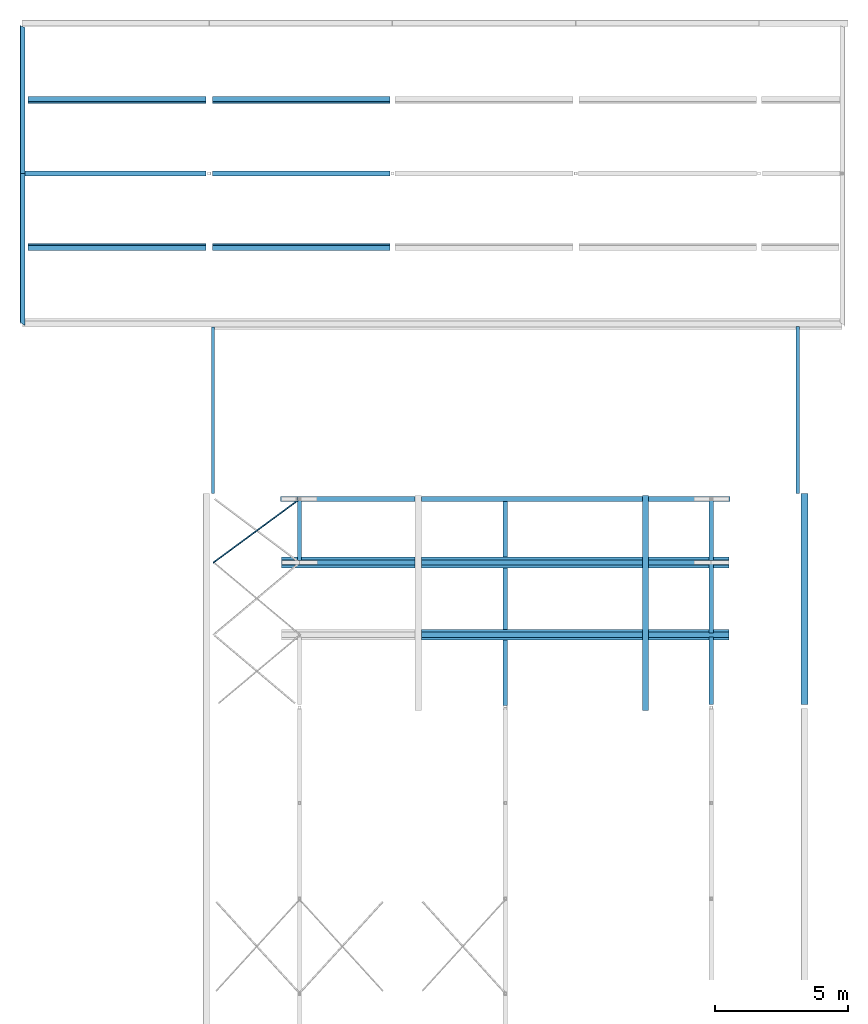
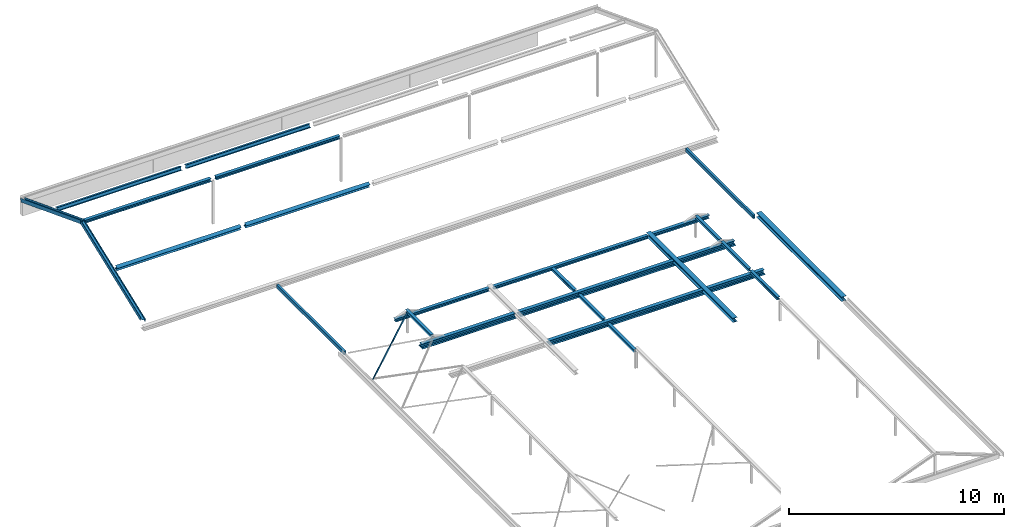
# One storey, part 6 of 10: 28 beams.
"""IFC2X3 building model written with IfcOpenShell, lengths in millimetres."""

from ifc_helpers import new_model, entity, si_unit, converted_unit, derived_unit, direction, frame, frame_2d, origin, place, context, subcontext, project, spatial, polyline, rectangle, i_section, outline, extrude, boolean, clip, halfspace, source, transform, mapped, material, type_object, type_shapes, element, save


model = new_model("IFC2X3")

# Units and contexts
model_context = context("Model", 3, precision=0.01, world=origin(), true_north=direction((6.123031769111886e-17, 1.0)))
body_context = subcontext(model_context, "Body", "Model", "MODEL_VIEW")
ifc_project = project(units=[si_unit("LENGTHUNIT", "METRE", prefix="MILLI"), si_unit("AREAUNIT", "SQUARE_METRE", prefix="MILLI"), si_unit("VOLUMEUNIT", "CUBIC_METRE"), converted_unit("PLANEANGLEUNIT", "DEGREE", entity("IfcPlaneAngleMeasure", 0.017453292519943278), si_unit("PLANEANGLEUNIT", "RADIAN"), dimensions=[0, 0, 0, 0, 0, 0, 0]), si_unit("MASSUNIT", "GRAM", prefix="KILO"), derived_unit("MASSDENSITYUNIT", [(si_unit("MASSUNIT", "GRAM", prefix="KILO"), 1), (si_unit("LENGTHUNIT", "METRE"), -3)]), derived_unit("IONCONCENTRATIONUNIT", [(si_unit("MASSUNIT", "GRAM", prefix="KILO"), 1), (si_unit("LENGTHUNIT", "METRE"), -3)]), derived_unit("MOMENTOFINERTIAUNIT", [(si_unit("LENGTHUNIT", "METRE"), 4)]), si_unit("TIMEUNIT", "SECOND"), si_unit("FREQUENCYUNIT", "HERTZ"), si_unit("THERMODYNAMICTEMPERATUREUNIT", "DEGREE_CELSIUS"), derived_unit("THERMALTRANSMITTANCEUNIT", [(si_unit("MASSUNIT", "GRAM", prefix="KILO"), 1), (si_unit("THERMODYNAMICTEMPERATUREUNIT", "KELVIN"), -1), (si_unit("TIMEUNIT", "SECOND"), -3)]), derived_unit("THERMALCONDUCTANCEUNIT", [(si_unit("MASSUNIT", "GRAM", prefix="KILO"), 1), (si_unit("THERMODYNAMICTEMPERATUREUNIT", "KELVIN"), -1), (si_unit("TIMEUNIT", "SECOND"), -3), (si_unit("LENGTHUNIT", "METRE"), 1)]), derived_unit("VOLUMETRICFLOWRATEUNIT", [(si_unit("LENGTHUNIT", "METRE", prefix="DECI"), 3), (si_unit("TIMEUNIT", "SECOND"), -1)]), derived_unit("MASSFLOWRATEUNIT", [(si_unit("MASSUNIT", "GRAM", prefix="KILO"), 1), (si_unit("TIMEUNIT", "SECOND"), -1)]), derived_unit("ROTATIONALFREQUENCYUNIT", [(si_unit("TIMEUNIT", "SECOND"), -1)]), si_unit("ELECTRICCURRENTUNIT", "AMPERE"), si_unit("ELECTRICVOLTAGEUNIT", "VOLT"), si_unit("POWERUNIT", "WATT"), si_unit("FORCEUNIT", "NEWTON", prefix="KILO"), si_unit("ILLUMINANCEUNIT", "LUX"), si_unit("LUMINOUSFLUXUNIT", "LUMEN"), si_unit("LUMINOUSINTENSITYUNIT", "CANDELA"), si_unit("ENERGYUNIT", "JOULE"), derived_unit("USERDEFINED", [(si_unit("MASSUNIT", "GRAM", prefix="KILO"), -1), (si_unit("LENGTHUNIT", "METRE"), -2), (si_unit("TIMEUNIT", "SECOND"), 3), (si_unit("LUMINOUSFLUXUNIT", "LUMEN"), 1)]), derived_unit("USERDEFINED", [(si_unit("MASSUNIT", "GRAM", prefix="KILO"), 1), (si_unit("TIMEUNIT", "SECOND"), -3), (si_unit("LENGTHUNIT", "METRE"), 3), (si_unit("ELECTRICCURRENTUNIT", "AMPERE"), -2)]), derived_unit("SOUNDPOWERUNIT", [(si_unit("MASSUNIT", "GRAM", prefix="KILO"), 1), (si_unit("TIMEUNIT", "SECOND"), -3), (si_unit("LENGTHUNIT", "METRE"), 2)]), derived_unit("SOUNDPRESSUREUNIT", [(si_unit("MASSUNIT", "GRAM", prefix="KILO"), 1), (si_unit("LENGTHUNIT", "METRE"), -1), (si_unit("TIMEUNIT", "SECOND"), -2)]), derived_unit("LINEARVELOCITYUNIT", [(si_unit("LENGTHUNIT", "METRE"), 1), (si_unit("TIMEUNIT", "SECOND"), -1)]), si_unit("PRESSUREUNIT", "PASCAL"), derived_unit("USERDEFINED", [(si_unit("MASSUNIT", "GRAM", prefix="KILO"), 1), (si_unit("LENGTHUNIT", "METRE"), -2), (si_unit("TIMEUNIT", "SECOND"), -2)]), derived_unit("LINEARFORCEUNIT", [(si_unit("MASSUNIT", "GRAM", prefix="KILO"), 1), (si_unit("TIMEUNIT", "SECOND"), -2)]), derived_unit("PLANARFORCEUNIT", [(si_unit("MASSUNIT", "GRAM", prefix="KILO"), 1), (si_unit("LENGTHUNIT", "METRE"), -1), (si_unit("TIMEUNIT", "SECOND"), -2)]), derived_unit("SPECIFICHEATCAPACITYUNIT", [(si_unit("THERMODYNAMICTEMPERATUREUNIT", "KELVIN"), -1), (si_unit("LENGTHUNIT", "METRE"), 2), (si_unit("TIMEUNIT", "SECOND"), -2)]), derived_unit("HEATFLUXDENSITYUNIT", [(si_unit("MASSUNIT", "GRAM", prefix="KILO"), 1), (si_unit("TIMEUNIT", "SECOND"), -3)]), derived_unit("HEATINGVALUEUNIT", [(si_unit("LENGTHUNIT", "METRE"), 2), (si_unit("TIMEUNIT", "SECOND"), -2)]), derived_unit("VAPORPERMEABILITYUNIT", [(si_unit("LENGTHUNIT", "METRE"), -1), (si_unit("TIMEUNIT", "SECOND"), 1)]), derived_unit("DYNAMICVISCOSITYUNIT", [(si_unit("MASSUNIT", "GRAM", prefix="KILO"), 1), (si_unit("TIMEUNIT", "SECOND"), -1), (si_unit("LENGTHUNIT", "METRE"), -1)]), derived_unit("THERMALEXPANSIONCOEFFICIENTUNIT", [(si_unit("THERMODYNAMICTEMPERATUREUNIT", "KELVIN"), -1)]), derived_unit("MODULUSOFELASTICITYUNIT", [(si_unit("MASSUNIT", "GRAM", prefix="KILO"), 1), (si_unit("LENGTHUNIT", "METRE"), -1), (si_unit("TIMEUNIT", "SECOND"), -2)]), derived_unit("ISOTHERMALMOISTURECAPACITYUNIT", [(si_unit("MASSUNIT", "GRAM", prefix="KILO"), -1), (si_unit("LENGTHUNIT", "METRE"), 3)]), derived_unit("MOISTUREDIFFUSIVITYUNIT", [(si_unit("TIMEUNIT", "SECOND"), -1), (si_unit("LENGTHUNIT", "METRE"), 2)]), derived_unit("MASSPERLENGTHUNIT", [(si_unit("MASSUNIT", "GRAM", prefix="KILO"), 1), (si_unit("LENGTHUNIT", "METRE"), -1)]), derived_unit("THERMALRESISTANCEUNIT", [(si_unit("MASSUNIT", "GRAM", prefix="KILO"), -1), (si_unit("TIMEUNIT", "SECOND"), 3), (si_unit("THERMODYNAMICTEMPERATUREUNIT", "KELVIN"), 1)]), derived_unit("ACCELERATIONUNIT", [(si_unit("LENGTHUNIT", "METRE"), 1), (si_unit("TIMEUNIT", "SECOND"), -2)]), derived_unit("ANGULARVELOCITYUNIT", [(si_unit("TIMEUNIT", "SECOND"), -1), (si_unit("PLANEANGLEUNIT", "RADIAN"), 1)]), derived_unit("LINEARSTIFFNESSUNIT", [(si_unit("MASSUNIT", "GRAM", prefix="KILO"), 1), (si_unit("TIMEUNIT", "SECOND"), -2)]), derived_unit("WARPINGCONSTANTUNIT", [(si_unit("LENGTHUNIT", "METRE"), 6)]), derived_unit("LINEARMOMENTUNIT", [(si_unit("MASSUNIT", "GRAM", prefix="KILO"), 1), (si_unit("LENGTHUNIT", "METRE"), 1), (si_unit("TIMEUNIT", "SECOND"), -2)]), derived_unit("TORQUEUNIT", [(si_unit("MASSUNIT", "GRAM", prefix="KILO"), 1), (si_unit("LENGTHUNIT", "METRE"), 2), (si_unit("TIMEUNIT", "SECOND"), -2)])], contexts=[model_context])

# Site, building, storey
site_placement = place(None, origin())
site = spatial("IfcSite", under=ifc_project, at=site_placement, Name="Default", CompositionType="ELEMENT")
building_placement = place(site_placement, origin())
building = spatial("IfcBuilding", under=site, at=building_placement, CompositionType="ELEMENT")
storey_placement = place(building_placement, frame((0.0, 0.0, 11700.0)))
storey = spatial("IfcBuildingStorey", under=building, at=storey_placement, Name="V4 BK metselwerk", CompositionType="ELEMENT", Elevation=11699.999999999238)

# Beams
ifc_material_1 = material(Name="Metal - Steel - S235 JRG2 (standaard)")
beam_type_1 = type_object("IfcBeamType", Name="btl_staal - HE(a-b-m):HEA160.", PredefinedType="NOTDEFINED")
beam_1_placement = place(storey_placement, frame((10225.896298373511, 25434.60501307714, 424.0), z_axis=(0.0, 0.0, 1.0), x_axis=(0.0, -1.0, 0.0)))
element("IfcBeam", 1, at=beam_1_placement, inside=storey, type_object=beam_type_1, material=ifc_material_1, Name="btl_staal - HE(a-b-m):HEA160.", ObjectType="btl_staal - HE(a-b-m):HEA160.", context=body_context, shape_type="SweptSolid", body=[
    extrude(i_section(OverallWidth=160.00000000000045, OverallDepth=151.99999999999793, WebThickness=6.000000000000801, FlangeThickness=9.000000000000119, at=frame_2d((-1.0800249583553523e-12, -1.0871303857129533e-12), x_axis=(0.0, 1.0))), frame((0.0, 0.0, -76.0), z_axis=(1.0, 0.0, 0.0), x_axis=(0.0, 0.0, -1.0)), (0.0, 0.0, 1.0), 2403.351388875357),
])
beam_2_placement = place(storey_placement, frame((17974.631844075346, 17544.605013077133, 180.0), z_axis=(0.0, -0.007453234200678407, 0.9999722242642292), x_axis=(0.0, 0.9999722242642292, 0.007453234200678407)))
element("IfcBeam", 2, at=beam_2_placement, inside=storey, type_object=beam_type_1, material=ifc_material_1, Name="btl_staal - HE(a-b-m):HEA160.", ObjectType="btl_staal - HE(a-b-m):HEA160.", context=body_context, shape_type="SweptSolid", body=[
    extrude(i_section(OverallWidth=160.00000000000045, OverallDepth=152.00000000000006, WebThickness=6.000000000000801, FlangeThickness=8.999999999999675, at=frame_2d((1.0800249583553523e-12, 1.0871303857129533e-12), x_axis=(0.0, 1.0))), frame((20.000555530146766, 0.0, -76.0), z_axis=(1.0, 0.0, 0.0), x_axis=(0.0, 0.0, -1.0)), (0.0, 0.0, 1.0), 2462.259805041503),
])
beam_3_placement = place(storey_placement, frame((25724.07989212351, 25279.105013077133, 424.0), z_axis=(0.0, 0.0, 1.0), x_axis=(0.0, -1.0, 0.0)))
element("IfcBeam", 3, at=beam_3_placement, inside=storey, type_object=beam_type_1, material=ifc_material_1, Name="btl_staal - HE(a-b-m):HEA160.", ObjectType="btl_staal - HE(a-b-m):HEA160.", context=body_context, shape_type="SweptSolid", body=[
    extrude(i_section(OverallWidth=159.99999999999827, OverallDepth=151.99999999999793, WebThickness=5.999999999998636, FlangeThickness=9.000000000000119, at=frame_2d((-1.0800249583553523e-12, 6.494360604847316e-12), x_axis=(0.0, 1.0))), frame((0.0, 0.0, -76.0), z_axis=(1.0, 0.0, 0.0), x_axis=(0.0, 0.0, -1.0)), (0.0, 0.0, 1.0), 2247.851388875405),
])
beam_4_placement = place(storey_placement, frame((25724.079892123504, 20157.92931863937, 409.70628815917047), z_axis=(0.0, 0.0, 1.0), x_axis=(0.0, -1.0, 0.0)))
element("IfcBeam", 4, at=beam_4_placement, inside=storey, type_object=beam_type_1, material=ifc_material_1, Name="btl_staal - HE(a-b-m):HEA160.", ObjectType="btl_staal - HE(a-b-m):HEA160.", context=body_context, shape_type="SweptSolid", body=[
    extrude(i_section(OverallWidth=159.99999999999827, OverallDepth=152.0000000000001, WebThickness=5.999999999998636, FlangeThickness=9.000000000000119, at=frame_2d((2.1671553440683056e-12, 6.494360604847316e-12), x_axis=(0.0, 1.0))), frame((0.0, 0.0, -76.0), z_axis=(1.0, 0.0, 0.0), x_axis=(0.0, 0.0, -1.0)), (0.0, 0.0, 1.0), 2543.324305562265),
])
beam_5_placement = place(storey_placement, frame((25724.079892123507, 22891.25362420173, 409.70628815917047), z_axis=(0.0, 0.0, 1.0), x_axis=(0.0, -1.0, 0.0)))
element("IfcBeam", 5, at=beam_5_placement, inside=storey, type_object=beam_type_1, material=ifc_material_1, Name="btl_staal - HE(a-b-m):HEA160.", ObjectType="btl_staal - HE(a-b-m):HEA160.", context=body_context, shape_type="SweptSolid", body=[
    extrude(i_section(OverallWidth=159.99999999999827, OverallDepth=152.0000000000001, WebThickness=5.999999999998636, FlangeThickness=9.000000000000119, at=frame_2d((2.1671553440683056e-12, 6.494360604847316e-12), x_axis=(0.0, 1.0))), frame((0.0, 0.0, -76.0), z_axis=(1.0, 0.0, 0.0), x_axis=(0.0, 0.0, -1.0)), (0.0, 0.0, 1.0), 2593.3243055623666),
])
beam_6_placement = place(storey_placement, frame((17974.63184407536, 20227.9293186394, 200.0), z_axis=(0.0, 0.0, 1.0), x_axis=(0.0, 1.0, 0.0)))
element("IfcBeam", 6, at=beam_6_placement, inside=storey, type_object=beam_type_1, material=ifc_material_1, Name="btl_staal - HE(a-b-m):HEA160.", ObjectType="btl_staal - HE(a-b-m):HEA160.", context=body_context, shape_type="SweptSolid", body=[
    extrude(i_section(OverallWidth=160.00000000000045, OverallDepth=151.99999999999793, WebThickness=6.000000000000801, FlangeThickness=9.000000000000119, at=frame_2d((-1.0800249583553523e-12, -3.247180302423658e-12), x_axis=(0.0, 1.0))), frame((200.0, 0.0, -76.0), z_axis=(1.0, 0.0, 0.0), x_axis=(0.0, 0.0, -1.0)), (0.0, 0.0, 1.0), 2323.32430556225),
])
beam_7_placement = place(storey_placement, frame((17974.631844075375, 22951.253624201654, 200.0), z_axis=(0.0, 0.00868267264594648, 0.9999623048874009), x_axis=(0.0, 0.9999623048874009, -0.00868267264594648)))
element("IfcBeam", 7, at=beam_7_placement, inside=storey, type_object=beam_type_1, material=ifc_material_1, Name="btl_staal - HE(a-b-m):HEA160.", ObjectType="btl_staal - HE(a-b-m):HEA160.", context=body_context, shape_type="SweptSolid", body=[
    extrude(i_section(OverallWidth=160.00000000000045, OverallDepth=152.00000000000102, WebThickness=6.000000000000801, FlangeThickness=9.000000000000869, at=frame_2d((1.0871303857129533e-12, 3.247180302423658e-12), x_axis=(0.0, 1.0))), frame((201.32735529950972, 0.0, -76.0), z_axis=(1.0, 0.0, 0.0), x_axis=(0.0, 0.0, -1.0)), (0.0, 0.0, 1.0), 2102.110861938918),
])
beam_type_2 = type_object("IfcBeamType", Name="btl_staal - HE(a-b-m):HEA200.", PredefinedType="NOTDEFINED")
beam_8_placement = place(storey_placement, frame((-107.0, 37594.33077377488, 1671.1901059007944), z_axis=(0.0, 0.3578459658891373, 0.9337806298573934), x_axis=(0.0, 0.9337806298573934, -0.3578459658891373)))
element("IfcBeam", 8, at=beam_8_placement, inside=storey, type_object=beam_type_2, material=ifc_material_1, Name="btl_staal - HE(a-b-m):HEA200.", ObjectType="btl_staal - HE(a-b-m):HEA200.", context=body_context, shape_type="SweptSolid", body=[
    clip(clip(extrude(i_section(OverallWidth=200.00000000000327, OverallDepth=190.00000000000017, WebThickness=6.4999999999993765, FlangeThickness=10.000000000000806, at=frame_2d((-2.0250467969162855e-12, 3.907985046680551e-13), x_axis=(1.0, 0.0))), frame((-38.32391993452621, 95.0, 0.0), z_axis=(1.0, 0.0, 0.0), x_axis=(0.0, 0.0, -1.0)), (0.0, 0.0, 1.0), 6002.449282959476), halfspace(frame((5891.312556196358, 0.0, -6186.766421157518), z_axis=(0.93377982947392, -0.35784805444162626, 0.0), x_axis=(0.0, 0.0, 1.0)), False)), halfspace(frame((38.32391993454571, 0.0, -100.0), z_axis=(-0.9337754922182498, 0.0, -0.35785937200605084), x_axis=(-0.35785937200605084, 0.0, 0.9337754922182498)), False)),
])
beam_9_placement = place(storey_placement, frame((-107.0, 37594.33077377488, 1671.1901059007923), z_axis=(0.0, -0.3578727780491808, 0.9337703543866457), x_axis=(0.0, -0.9337703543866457, -0.3578727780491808)))
element("IfcBeam", 9, at=beam_9_placement, inside=storey, type_object=beam_type_2, material=ifc_material_1, Name="btl_staal - HE(a-b-m):HEA200.", ObjectType="btl_staal - HE(a-b-m):HEA200.", context=body_context, shape_type="SweptSolid", body=[
    clip(clip(extrude(i_section(OverallWidth=200.00000000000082, OverallDepth=189.99999999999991, WebThickness=6.49999999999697, FlangeThickness=10.000000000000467, at=frame_2d((1.7763568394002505e-12, -6.821210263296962e-13), x_axis=(1.0, 0.0))), frame((-38.323919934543, -95.0, 0.0), z_axis=(1.0, 0.0, 0.0), x_axis=(0.0, 0.0, -1.0)), (0.0, 0.0, 1.0), 6170.125348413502), halfspace(frame((6145.035427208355, 17.786770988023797, 6145.03542720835), z_axis=(0.8022908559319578, -0.5969333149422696, 0.0), x_axis=(0.0, 0.0, -1.0)), False)), halfspace(frame((38.32391993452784, 0.0, -100.0), z_axis=(-0.9337754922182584, 0.0, -0.3578593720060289), x_axis=(0.3578593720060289, 0.0, -0.9337754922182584)), False)),
])
beam_10_placement = place(storey_placement, frame((-107.0, 34794.41510610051, 705.2000000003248)))
element("IfcBeam", 10, at=beam_10_placement, inside=storey, type_object=beam_type_2, material=ifc_material_1, Name="btl_staal - HE(a-b-m):HEA200.", ObjectType="btl_staal - HE(a-b-m):HEA200.", context=body_context, shape_type="SweptSolid", body=[
    extrude(outline(polyline([(-100.0, -85.0), (-100.0, -95.0), (100.0, -95.0), (100.0, -85.0), (3.2500000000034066, -85.0), (3.2499999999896, 85.0), (100.0, 85.0), (100.0, 95.0), (-100.0, 95.0), (-100.0, 85.0), (-3.2500000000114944, 85.0), (-3.2499999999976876, -85.0), (-100.0, -85.0)])), frame((119.69999999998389, 33.9985124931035, -88.70795425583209), z_axis=(-1.0, 0.0, 0.0), x_axis=(0.0, -0.9337679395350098, -0.35787907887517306)), (0.0, 0.0, -1.0), 6687.30000000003),
])
beam_11_placement = place(storey_placement, frame((13625.000781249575, 34794.41510610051, 705.2000000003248), z_axis=(0.0, 0.0, 1.0), x_axis=(-1.0, 0.0, 0.0)))
element("IfcBeam", 11, at=beam_11_placement, inside=storey, type_object=beam_type_2, material=ifc_material_1, Name="btl_staal - HE(a-b-m):HEA200.", ObjectType="btl_staal - HE(a-b-m):HEA200.", context=body_context, shape_type="SweptSolid", body=[
    extrude(i_section(OverallWidth=200.00000000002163, OverallDepth=190.0, WebThickness=6.500000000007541, FlangeThickness=10.00000000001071, at=frame_2d((-1.6342482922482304e-12, -1.7905676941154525e-12), x_axis=(1.0, 0.0))), frame((0.0, -33.99851249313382, -88.70795425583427), z_axis=(1.0, 0.0, 0.0), x_axis=(0.0, -0.9337679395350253, 0.3578790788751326)), (0.0, 0.0, 1.0), 6674.999218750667),
])
beam_12_placement = place(storey_placement, frame((-107.0, 40394.573208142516, 705.2000000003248)))
element("IfcBeam", 12, at=beam_12_placement, inside=storey, type_object=beam_type_2, material=ifc_material_1, Name="btl_staal - HE(a-b-m):HEA200.", ObjectType="btl_staal - HE(a-b-m):HEA200.", context=body_context, shape_type="SweptSolid", body=[
    extrude(i_section(OverallWidth=199.99999999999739, OverallDepth=190.0, WebThickness=6.500000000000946, FlangeThickness=10.00000000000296, at=frame_2d((3.907985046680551e-13, -1.0089706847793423e-12), x_axis=(1.0, 0.0))), frame((119.6999999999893, -33.99851249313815, -88.70795425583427), z_axis=(1.0, 0.0, 0.0), x_axis=(0.0, -0.9337679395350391, 0.3578790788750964)), (0.0, 0.0, 1.0), 6687.300000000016),
])
beam_13_placement = place(storey_placement, frame((13625.000781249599, 40394.573208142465, 705.2000000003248), z_axis=(0.0, 0.0, 1.0), x_axis=(-1.0, 0.0, 0.0)))
element("IfcBeam", 13, at=beam_13_placement, inside=storey, type_object=beam_type_2, material=ifc_material_1, Name="btl_staal - HE(a-b-m):HEA200.", ObjectType="btl_staal - HE(a-b-m):HEA200.", context=body_context, shape_type="SweptSolid", body=[
    extrude(outline(polyline([(-100.0, -85.0), (-100.0, -95.0), (100.0, -95.0), (100.0, -85.0), (3.2500000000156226, -85.0), (3.2499999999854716, 85.0), (100.0, 85.0), (100.0, 95.0), (-100.0, 95.0), (-100.0, 85.0), (-3.2500000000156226, 85.0), (-3.2499999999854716, -85.0), (-100.0, -85.0)])), frame((0.0, 33.998512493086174, -88.70795425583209), z_axis=(-1.0, 0.0, 0.0), x_axis=(0.0, -0.9337679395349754, -0.3578790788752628)), (0.0, 0.0, -1.0), 6674.9992187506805),
])
beam_type_3 = type_object("IfcBeamType", Name="btl_staal - HE(a-b-m):HEA180", PredefinedType="NOTDEFINED")
beam_14_placement = place(storey_placement, frame((-107.0, 37594.38570506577, 1743.8000000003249)))
element("IfcBeam", 14, at=beam_14_placement, inside=storey, type_object=beam_type_3, material=ifc_material_1, Name="btl_staal - HE(a-b-m):HEA180", ObjectType="btl_staal - HE(a-b-m):HEA180", context=body_context, shape_type="SweptSolid", body=[
    extrude(i_section(OverallWidth=180.0000000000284, OverallDepth=170.99999999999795, WebThickness=5.9999999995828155, FlangeThickness=9.500000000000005, at=frame_2d((-1.0871303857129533e-12, 2.1671553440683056e-12), x_axis=(0.0, 1.0))), frame((0.0, 0.0, -85.50000000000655), z_axis=(1.0, 0.0, 0.0), x_axis=(0.0, 0.0, -1.0)), (0.0, 0.0, 1.0), 6807.000000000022),
])
beam_15_placement = place(storey_placement, frame((13625.000781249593, 37594.38570506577, 1743.8000000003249), z_axis=(0.0, 0.0, 1.0), x_axis=(-1.0, 0.0, 0.0)))
element("IfcBeam", 15, at=beam_15_placement, inside=storey, type_object=beam_type_3, material=ifc_material_1, Name="btl_staal - HE(a-b-m):HEA180", ObjectType="btl_staal - HE(a-b-m):HEA180", context=body_context, shape_type="SweptSolid", body=[
    extrude(i_section(OverallWidth=180.0000000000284, OverallDepth=170.99999999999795, WebThickness=5.9999999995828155, FlangeThickness=9.500000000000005, at=frame_2d((-2.1671553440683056e-12, -2.1671553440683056e-12), x_axis=(0.0, 1.0))), frame((0.0, 0.0, -85.50000000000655), z_axis=(1.0, 0.0, 0.0), x_axis=(0.0, 0.0, -1.0)), (0.0, 0.0, 1.0), 6674.999218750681),
])
beam_16_placement = place(storey_placement, frame((9510.00679379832, 25344.60501307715, 180.0)))
element("IfcBeam", 16, at=beam_16_placement, inside=storey, type_object=beam_type_3, material=ifc_material_1, Name="btl_staal - HE(a-b-m):HEA180", ObjectType="btl_staal - HE(a-b-m):HEA180", context=body_context, shape_type="SweptSolid", body=[
    clip(extrude(i_section(OverallWidth=180.00000000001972, OverallDepth=170.99999999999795, WebThickness=5.999999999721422, FlangeThickness=9.500000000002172, at=frame_2d((-1.0800249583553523e-12, 2.1600499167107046e-12), x_axis=(0.0, 1.0))), frame((0.0, 0.0, -85.50000000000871), z_axis=(1.0, 0.0, 0.0), x_axis=(0.0, 0.0, -1.0)), (0.0, 0.0, 1.0), 5069.856315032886), halfspace(frame((0.0, 0.0, 0.0), z_axis=(-0.9832728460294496, 0.0, -0.18213871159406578), x_axis=(0.18213871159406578, 0.0, -0.9832728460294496)), False)),
])
beam_17_placement = place(storey_placement, frame((14819.8631088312, 25344.60501307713, 180.0)))
element("IfcBeam", 17, at=beam_17_placement, inside=storey, type_object=beam_type_3, material=ifc_material_1, Name="btl_staal - HE(a-b-m):HEA180", ObjectType="btl_staal - HE(a-b-m):HEA180", context=body_context, shape_type="SweptSolid", body=[
    extrude(i_section(OverallWidth=180.0000000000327, OverallDepth=170.99999999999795, WebThickness=5.999999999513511, FlangeThickness=9.500000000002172, at=frame_2d((1.0800249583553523e-12, 2.1671553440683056e-12), x_axis=(0.0, 1.0))), frame((0.0, 0.0, -85.50000000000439), z_axis=(1.0, 0.0, 0.0), x_axis=(0.0, 0.0, -1.0)), (0.0, 0.0, 1.0), 8310.123498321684),
])
beam_18_placement = place(storey_placement, frame((23369.986607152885, 25344.605013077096, 180.0)))
element("IfcBeam", 18, at=beam_18_placement, inside=storey, type_object=beam_type_3, material=ifc_material_1, Name="btl_staal - HE(a-b-m):HEA180", ObjectType="btl_staal - HE(a-b-m):HEA180", context=body_context, shape_type="SweptSolid", body=[
    clip(extrude(i_section(OverallWidth=180.00000000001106, OverallDepth=171.0000000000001, WebThickness=5.999999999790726, FlangeThickness=9.500000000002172, at=frame_2d((0.0, -2.1671553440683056e-12), x_axis=(0.0, 1.0))), frame((0.0, 0.0, -85.50000000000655), z_axis=(1.0, 0.0, 0.0), x_axis=(0.0, 0.0, -1.0)), (0.0, 0.0, 1.0), 3069.981309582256), halfspace(frame((3069.9813095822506, 0.0, 0.0), z_axis=(0.9832727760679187, 0.0, -0.18213908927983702), x_axis=(0.18213908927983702, 0.0, 0.9832727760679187)), False)),
])
ifc_material_2 = material(Name="Metal - Steel - S275 J0H (standaard-kokers/buizen)")
beam_type_4 = type_object("IfcBeamType", Name="btl_staal - Koker:K200x120x8", PredefinedType="NOTDEFINED")
beam_19_placement = place(storey_placement, frame((6971.000781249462, 25549.10501307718, -910.0), z_axis=(0.0, 0.0, 1.0), x_axis=(0.0, 1.0, 0.0)))
element("IfcBeam", 19, at=beam_19_placement, inside=storey, type_object=beam_type_4, material=ifc_material_2, Name="btl_staal - Koker:K200x120x8", ObjectType="btl_staal - Koker:K200x120x8", context=body_context, shape_type="SweptSolid", body=[
    boolean("DIFFERENCE", extrude(rectangle(XDim=200.0, YDim=119.9999999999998, at=frame_2d((1.0871303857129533e-12, -5.435651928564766e-13), x_axis=(1.0, 0.0))), frame((0.0, 0.0, -100.0), z_axis=(1.0, 0.0, 0.0), x_axis=(0.0, 0.0, -1.0)), (0.0, 0.0, 1.0), 6278.46819198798), extrude(rectangle(XDim=183.99999999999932, YDim=103.99999999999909, at=frame_2d((5.435651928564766e-13, 1.0800249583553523e-12), x_axis=(0.0, 1.0))), frame((0.0, 0.0, -100.0), z_axis=(1.0, 0.0, 0.0), x_axis=(0.0, -1.0, 0.0)), (0.0, 0.0, 1.0), 6278.4681919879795)),
])
beam_20_placement = place(storey_placement, frame((28978.986142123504, 25544.605013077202, -870.0), z_axis=(0.0, 0.0, 1.0), x_axis=(0.0, 1.0, 0.0)))
element("IfcBeam", 20, at=beam_20_placement, inside=storey, type_object=beam_type_4, material=ifc_material_2, Name="btl_staal - Koker:K200x120x8", ObjectType="btl_staal - Koker:K200x120x8", context=body_context, shape_type="SweptSolid", body=[
    boolean("DIFFERENCE", extrude(rectangle(XDim=200.0, YDim=119.9999999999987, at=frame_2d((1.0871303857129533e-12, 0.0), x_axis=(1.0, 0.0))), frame((0.0, 0.0, -100.0), z_axis=(1.0, 0.0, 0.0), x_axis=(0.0, 0.0, -1.0)), (0.0, 0.0, 1.0), 6292.968191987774), extrude(rectangle(XDim=183.99999999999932, YDim=104.00000000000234, at=frame_2d((0.0, 1.0800249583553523e-12), x_axis=(0.0, 1.0))), frame((0.0, 0.0, -100.0), z_axis=(1.0, 0.0, 0.0), x_axis=(0.0, -1.0, 0.0)), (0.0, 0.0, 1.0), 6292.968191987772)),
])
beam_type_5 = type_object("IfcBeamType", Name="btl_staal - HE(a-b-m):HEB240", PredefinedType="NOTDEFINED")
beam_21_placement = place(storey_placement, frame((23249.98660715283, 17384.605013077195, 240.0), z_axis=(0.0, 0.0, 1.0), x_axis=(0.0, 1.0, 0.0)))
element("IfcBeam", 21, at=beam_21_placement, inside=storey, type_object=beam_type_5, material=ifc_material_1, Name="btl_staal - HE(a-b-m):HEB240", ObjectType="btl_staal - HE(a-b-m):HEB240", context=body_context, shape_type="SweptSolid", body=[
    extrude(i_section(OverallWidth=239.9999999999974, OverallDepth=239.9999999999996, WebThickness=10.000000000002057, FlangeThickness=17.000000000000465, at=frame_2d((1.0871303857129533e-12, -2.1671553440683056e-12), x_axis=(0.0, 1.0))), frame((0.0, 0.0, -120.0), z_axis=(1.0, 0.0, 0.0), x_axis=(0.0, 0.0, -1.0)), (0.0, 0.0, 1.0), 8085.000000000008),
])
beam_type_6 = type_object("IfcBeamType", Name="btl_staal - HE(a-b-m):HEA260", PredefinedType="NOTDEFINED")
beam_22_placement = place(storey_placement, frame((29231.98614212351, 17604.605013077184, -782.0), z_axis=(0.0, 0.0, 1.0), x_axis=(0.0, 1.0, 0.0)))
element("IfcBeam", 22, at=beam_22_placement, inside=storey, type_object=beam_type_6, material=ifc_material_1, Name="btl_staal - HE(a-b-m):HEA260", ObjectType="btl_staal - HE(a-b-m):HEA260", context=body_context, shape_type="SweptSolid", body=[
    extrude(i_section(OverallWidth=260.00000000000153, OverallDepth=250.00000000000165, WebThickness=7.500000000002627, FlangeThickness=12.50000000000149, at=frame_2d((-1.0800249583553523e-12, -4.320099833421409e-12), x_axis=(0.0, 1.0))), frame((0.0, 0.0, -125.0), z_axis=(1.0, 0.0, 0.0), x_axis=(0.0, 0.0, -1.0)), (0.0, 0.0, 1.0), 7940.000000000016),
])
beam_type_7 = type_object("IfcBeamType", Name="btl_staal - SFB:HEB200+400x8", PredefinedType="BEAM", material=ifc_material_1)
shared_shape_1 = source(origin(), body_context, "Body", "SweptSolid", [
    extrude(outline(polyline([(85.0, -100.0), (100.0, -100.0), (100.0, 100.0), (85.0, 100.0), (85.0, 4.499999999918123), (-85.0, 4.500000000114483), (-85.0, 100.0), (-100.0, 100.0), (-100.0, -100.0), (-85.0, -100.0), (-85.0, -4.499999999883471), (85.0, -4.500000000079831), (85.0, -100.0)])), frame((9547.054234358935, 22951.25362420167, 11800.0), z_axis=(1.0, 0.0, 0.0), x_axis=(0.0, 0.0, -1.0)), (0.0, 0.0, 1.0), 5032.808874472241),
    extrude(rectangle(XDim=15.000000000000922, YDim=400.0, at=frame_2d((-2.1658230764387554e-12, 1.5162981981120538e-11), x_axis=(1.0, 0.0))), frame((9547.054234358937, 22951.253624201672, 11692.500000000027), z_axis=(1.0, 0.0, 0.0), x_axis=(0.0, 0.0, -1.0)), (0.0, 0.0, 1.0), 5032.808874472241),
])
type_shapes(beam_type_7, [shared_shape_1])
beam_23_placement = place(storey_placement, frame((0.0, 0.0, -11700.0)))
element("IfcBeam", 23, at=beam_23_placement, inside=storey, type_object=beam_type_7, material=ifc_material_1, Name="btl_staal - SFB:HEB200+400x8", ObjectType="btl_staal - SFB:HEB200+400x8", context=body_context, shape_type="MappedRepresentation", body=[
    mapped(shared_shape_1, transform((0.0, 0.0, 0.0), scale=1.0)),
])
beam_type_8 = type_object("IfcBeamType", Name="btl_staal - Hoeklijn 2.0:L 60X60X8", PredefinedType="NOTDEFINED")
beam_24_placement = place(storey_placement, frame((6974.515078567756, 22957.250462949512, -877.2370129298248), z_axis=(-0.23780316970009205, -0.1749668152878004, 0.9554246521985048), x_axis=(0.7695665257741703, 0.5662187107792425, 0.29523504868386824)))
element("IfcBeam", 24, at=beam_24_placement, inside=storey, type_object=beam_type_8, material=ifc_material_1, Name="btl_staal - Hoeklijn 2.0:L 60X60X8", ObjectType="btl_staal - Hoeklijn 2.0:L 60X60X8", context=body_context, shape_type="SweptSolid", body=[
    extrude(outline(polyline([(-37.33333333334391, -14.666666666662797), (-37.33333333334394, -22.666666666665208), (22.66666666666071, -22.666666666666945), (22.666666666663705, 37.333333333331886), (14.66666666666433, 37.333333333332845), (14.66666666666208, -14.66666666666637), (-37.33333333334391, -14.666666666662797)])), frame((-24.423777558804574, -13.351621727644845, -35.30370357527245), z_axis=(-1.0, 0.0, 0.0), x_axis=(0.0, -0.9772104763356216, 0.21227266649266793)), (0.0, 0.0, -1.0), 4240.735433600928),
])
beam_type_9 = type_object("IfcBeamType", Name="btl_staal - SFB:HEB200+400x8", PredefinedType="BEAM", material=ifc_material_1)
shared_shape_2 = source(origin(), body_context, "Body", "SweptSolid", [
    extrude(rectangle(XDim=15.00000000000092, YDim=400.0000000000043, at=frame_2d((0.0, 2.5991653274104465e-11), x_axis=(1.0, 0.0))), frame((14819.863108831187, 22951.253624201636, 11692.500000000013), z_axis=(1.0, 0.0, 0.0), x_axis=(0.0, 0.0, -1.0)), (0.0, 0.0, 1.0), 8310.123498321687),
    extrude(outline(polyline([(85.0, -100.0), (100.0, -100.0), (100.0, 100.0), (85.0, 100.0), (85.0, 4.499999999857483), (-85.0, 4.500000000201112), (-85.0, 100.0), (-100.0, 100.0), (-100.0, -100.0), (-85.0, -100.0), (-85.0, -4.499999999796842), (85.0, -4.500000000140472), (85.0, -100.0)])), frame((14819.863108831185, 22951.253624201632, 11800.0), z_axis=(1.0, 0.0, 0.0), x_axis=(0.0, 0.0, -1.0)), (0.0, 0.0, 1.0), 8310.123498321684),
])
type_shapes(beam_type_9, [shared_shape_2])
beam_25_placement = place(storey_placement, frame((0.0, 0.0, -11700.0)))
element("IfcBeam", 25, at=beam_25_placement, inside=storey, type_object=beam_type_9, material=ifc_material_1, Name="btl_staal - SFB:HEB200+400x8", ObjectType="btl_staal - SFB:HEB200+400x8", context=body_context, shape_type="MappedRepresentation", body=[
    mapped(shared_shape_2, transform((0.0, 0.0, 0.0), scale=1.0)),
])
beam_type_10 = type_object("IfcBeamType", Name="btl_staal - SFB:HEB200+400x8", PredefinedType="BEAM", material=ifc_material_1)
shared_shape_3 = source(origin(), body_context, "Body", "SweptSolid", [
    extrude(rectangle(XDim=15.00000000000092, YDim=400.0000000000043, at=frame_2d((0.0, 2.5991653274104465e-11), x_axis=(1.0, 0.0))), frame((14819.863108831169, 20227.92931863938, 11692.500000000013), z_axis=(1.0, 0.0, 0.0), x_axis=(0.0, 0.0, -1.0)), (0.0, 0.0, 1.0), 8310.123498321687),
    extrude(outline(polyline([(85.0, -100.0), (100.0, -100.0), (100.0, 100.0), (85.0, 100.0), (85.0, 4.499999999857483), (-85.0, 4.500000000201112), (-85.0, 100.0), (-100.0, 100.0), (-100.0, -100.0), (-85.0, -100.0), (-85.0, -4.499999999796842), (85.0, -4.500000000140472), (85.0, -100.0)])), frame((14819.863108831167, 20227.929318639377, 11800.0), z_axis=(1.0, 0.0, 0.0), x_axis=(0.0, 0.0, -1.0)), (0.0, 0.0, 1.0), 8310.123498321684),
])
type_shapes(beam_type_10, [shared_shape_3])
beam_26_placement = place(storey_placement, frame((0.0, 0.0, -11700.0)))
element("IfcBeam", 26, at=beam_26_placement, inside=storey, type_object=beam_type_10, material=ifc_material_1, Name="btl_staal - SFB:HEB200+400x8", ObjectType="btl_staal - SFB:HEB200+400x8", context=body_context, shape_type="MappedRepresentation", body=[
    mapped(shared_shape_3, transform((0.0, 0.0, 0.0), scale=1.0)),
])
beam_type_11 = type_object("IfcBeamType", Name="btl_staal - SFB:HEB200+400x8", PredefinedType="BEAM", material=ifc_material_1)
shared_shape_4 = source(origin(), body_context, "Body", "SweptSolid", [
    extrude(rectangle(XDim=15.00000000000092, YDim=400.0, at=frame_2d((-2.1658230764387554e-12, 8.65441052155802e-12), x_axis=(1.0, 0.0))), frame((23369.986607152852, 20227.92931863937, 11692.499999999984), z_axis=(1.0, 0.0, 0.0), x_axis=(0.0, 0.0, -1.0)), (0.0, 0.0, 1.0), 3032.8496481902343),
    extrude(outline(polyline([(85.0, -100.0), (100.0, -100.0), (100.0, 100.0), (85.0, 100.0), (85.0, 4.499999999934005), (-85.0, 4.5000000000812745), (-85.0, 100.0), (-100.0, 100.0), (-100.0, -100.0), (-85.0, -100.0), (-85.0, -4.499999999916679), (85.0, -4.500000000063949), (85.0, -100.0)])), frame((23369.986607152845, 20227.92931863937, 11800.0), z_axis=(1.0, 0.0, 0.0), x_axis=(0.0, 0.0, -1.0)), (0.0, 0.0, 1.0), 3032.849648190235),
])
type_shapes(beam_type_11, [shared_shape_4])
beam_27_placement = place(storey_placement, frame((0.0, 0.0, -11700.0)))
element("IfcBeam", 27, at=beam_27_placement, inside=storey, type_object=beam_type_11, material=ifc_material_1, Name="btl_staal - SFB:HEB200+400x8", ObjectType="btl_staal - SFB:HEB200+400x8", context=body_context, shape_type="MappedRepresentation", body=[
    mapped(shared_shape_4, transform((0.0, 0.0, 0.0), scale=1.0)),
])
beam_type_12 = type_object("IfcBeamType", Name="btl_staal - SFB:HEB200+400x8", PredefinedType="BEAM", material=ifc_material_1)
shared_shape_5 = source(origin(), body_context, "Body", "SweptSolid", [
    extrude(rectangle(XDim=15.00000000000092, YDim=400.0, at=frame_2d((-2.1658230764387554e-12, 8.65441052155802e-12), x_axis=(1.0, 0.0))), frame((23369.98660715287, 22951.253624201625, 11692.499999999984), z_axis=(1.0, 0.0, 0.0), x_axis=(0.0, 0.0, -1.0)), (0.0, 0.0, 1.0), 3032.8496481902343),
    extrude(outline(polyline([(85.0, -100.0), (100.0, -100.0), (100.0, 100.0), (85.0, 100.0), (85.0, 4.499999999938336), (-85.0, 4.500000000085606), (-85.0, 100.0), (-100.0, 100.0), (-100.0, -100.0), (-85.0, -100.0), (-85.0, -4.4999999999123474), (85.0, -4.500000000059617), (85.0, -100.0)])), frame((23369.98660715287, 22951.25362420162, 11800.0), z_axis=(1.0, 0.0, 0.0), x_axis=(0.0, 0.0, -1.0)), (0.0, 0.0, 1.0), 3032.849648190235),
])
type_shapes(beam_type_12, [shared_shape_5])
beam_28_placement = place(storey_placement, frame((0.0, 0.0, -11700.0)))
element("IfcBeam", 28, at=beam_28_placement, inside=storey, type_object=beam_type_12, material=ifc_material_1, Name="btl_staal - SFB:HEB200+400x8", ObjectType="btl_staal - SFB:HEB200+400x8", context=body_context, shape_type="MappedRepresentation", body=[
    mapped(shared_shape_5, transform((0.0, 0.0, 0.0), scale=1.0)),
])

save(model, "model.ifc")
